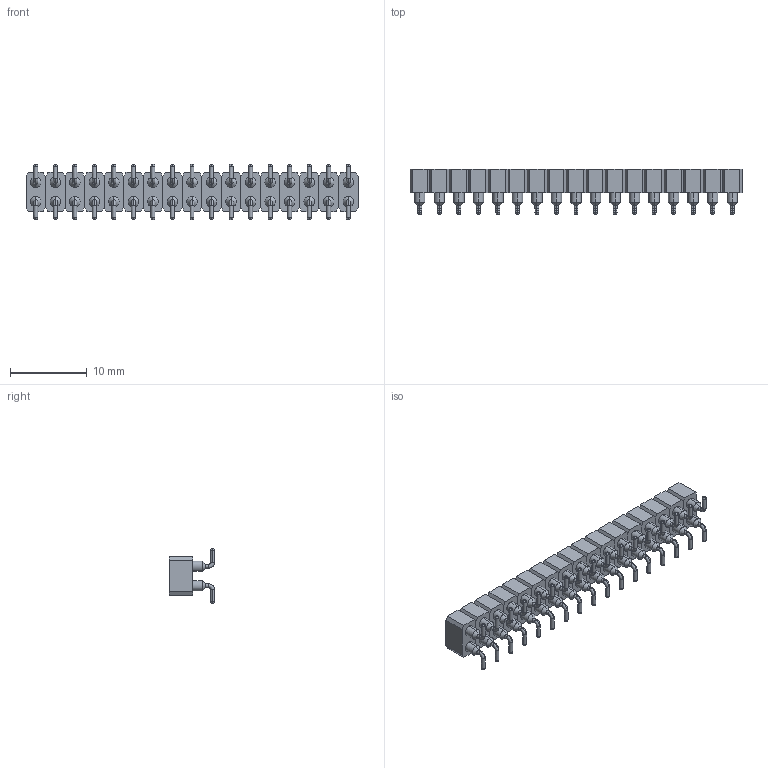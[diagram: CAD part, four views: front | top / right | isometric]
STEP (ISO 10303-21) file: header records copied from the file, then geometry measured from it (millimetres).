
FILE_DESCRIPTION (( 'STEP AP203' ), '1' );
FILE_NAME ('PM254-2-17-S-3.0-XX-C (2.54双排 排母 立贴圆针 塑高3.0 L=6.5mm)-HCTL.STEP', '2025-08-08T08:59:49', ( '' ), ( '' ), 'SwSTEP 2.0', 'SolidWorks 2025', '' );
FILE_SCHEMA (( 'CONFIG_CONTROL_DESIGN' ));
Length unit declared in the file: millimetre
Products named in the file (1): PM254-2-17-S-3.0-XX-C (2.54双排 排母 立贴圆针 塑高3.0 L=6.5mm)-HCTL
Bounding box: 43.18 x 5.86 x 7.18 mm (x, y, z)
Volume: 594.7 mm3; surface area: 1959.7 mm2
Topology: 17 solids, 17 shells, 1088 faces, 2380 edges, 1496 vertices
Faces by surface type: cylinder 476, plane 340, torus 204, cone 68
Entity records: 30921 total; most frequent: CARTESIAN_POINT 6257, DIRECTION 5578, ORIENTED_EDGE 4760, EDGE_CURVE 2380, AXIS2_PLACEMENT_3D 2313, VERTEX_POINT 1496, EDGE_LOOP 1258, CIRCLE 1224
